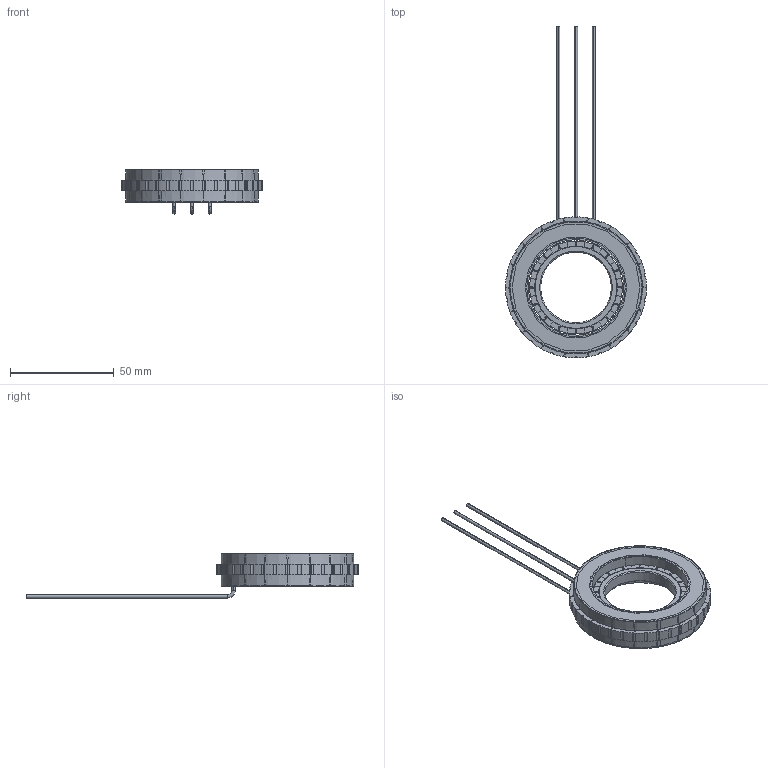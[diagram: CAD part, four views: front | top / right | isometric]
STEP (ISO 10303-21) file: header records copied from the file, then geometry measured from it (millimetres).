
FILE_DESCRIPTION (( 'STEP AP203' ), '1' );
FILE_NAME ('307090722SS 无框力矩电机（FMC06805-0010-3034N-8DS00）-V1.0.STEP', '2024-02-22T02:26:46', ( 'muse' ), ( 'muse' ), 'SwSTEP 2.0', 'SolidWorks 2023', '' );
FILE_SCHEMA (( 'CONFIG_CONTROL_DESIGN' ));
Length unit declared in the file: millimetre
Products named in the file (28): 10108010273 定子铁芯（68L5-18Z(B35A300)含骨架）; 复件 10212020237 电源线（AWM1332-20AWG 蓝）^207012524 定子总成（68L5-1X0.47-40匝-1-16P星形）-V1.0; 复件 10212020236 电源线（AWM1332-20AWG 棕）^207012524 定子总成（68L5-1X0.47-40匝-1-16P星形）-V1.0; 复件 10212020238 电源线（AWM1332-20AWG 紫）^207012524 定子总成（68L5-1X0.47-40匝-1-16P星形）-V1.0; 10108060610 磁钢（68L6-16P-N45SH（N极）); 10108060611 磁钢（68L6-16P-N45SH（S极）); 307090722SS 无框力矩电机（FMC06805-0010-3034N-8DS00）-V1.0; 10108040234 转子铁芯（68L6-16P（40Cr电镀））-V1.0; 207012524 定子总成（68L5-1X0.47-40匝-1-16P星形）-V1.0; 复件 10212010008 漆包线（QZY-2-180  0.47 GB6109.5-88）^207012524 定子总成（68L5-1X0.47-40匝-1-16P星形）-V1.0; 207042413 转子（FMC06805-0010-3034N-8DS00）-V1.0
Assembly tree (41 placements, depth 3):
  307090722SS 无框力矩电机（FMC06805-0010-3034N-8DS00）-V1.0
    207012524 定子总成（68L5-1X0.47-40匝-1-16P星形）-V1.0
      10108010273 定子铁芯（68L5-18Z(B35A300)含骨架）
      10108010273 定子铁芯（68L5-18Z(B35A300)含骨架）
      10108010273 定子铁芯（68L5-18Z(B35A300)含骨架）
      10108010273 定子铁芯（68L5-18Z(B35A300)含骨架）
      10108010273 定子铁芯（68L5-18Z(B35A300)含骨架）
      10108010273 定子铁芯（68L5-18Z(B35A300)含骨架）
      10108010273 定子铁芯（68L5-18Z(B35A300)含骨架）
      10108010273 定子铁芯（68L5-18Z(B35A300)含骨架）
      10108010273 定子铁芯（68L5-18Z(B35A300)含骨架）
      10108010273 定子铁芯（68L5-18Z(B35A300)含骨架）
      10108010273 定子铁芯（68L5-18Z(B35A300)含骨架）
      10108010273 定子铁芯（68L5-18Z(B35A300)含骨架）
      10108010273 定子铁芯（68L5-18Z(B35A300)含骨架）
      10108010273 定子铁芯（68L5-18Z(B35A300)含骨架）
      10108010273 定子铁芯（68L5-18Z(B35A300)含骨架）
      10108010273 定子铁芯（68L5-18Z(B35A300)含骨架）
      10108010273 定子铁芯（68L5-18Z(B35A300)含骨架）
      10108010273 定子铁芯（68L5-18Z(B35A300)含骨架）
      复件 10212010008 漆包线（QZY-2-180  0.47 GB6109.5-88）^207012524 定子总成（68L5-1X0.47-40匝-1-16P星形）-V1.0
      复件 10212020237 电源线（AWM1332-20AWG 蓝）^207012524 定子总成（68L5-1X0.47-40匝-1-16P星形）-V1.0
      复件 10212020238 电源线（AWM1332-20AWG 紫）^207012524 定子总成（68L5-1X0.47-40匝-1-16P星形）-V1.0
      复件 10212020236 电源线（AWM1332-20AWG 棕）^207012524 定子总成（68L5-1X0.47-40匝-1-16P星形）-V1.0
    207042413 转子（FMC06805-0010-3034N-8DS00）-V1.0
      10108040234 转子铁芯（68L6-16P（40Cr电镀））-V1.0
      10108060610 磁钢（68L6-16P-N45SH（N极）)  x8
      10108060611 磁钢（68L6-16P-N45SH（S极）)  x8
Bounding box: 67.98 x 159.99 x 21.28 mm (x, y, z)
Volume: 32061 mm3; surface area: 30775.2 mm2
Topology: 40 solids, 40 shells, 1920 faces, 5194 edges, 3386 vertices
Faces by surface type: plane 1124, bspline 368, cylinder 342, cone 80, torus 6
Entity records: 46419 total; most frequent: CARTESIAN_POINT 10903, ORIENTED_EDGE 6860, DIRECTION 6620, EDGE_CURVE 3430, LINE 2248, VECTOR 2248, VERTEX_POINT 2210, AXIS2_PLACEMENT_3D 2186
